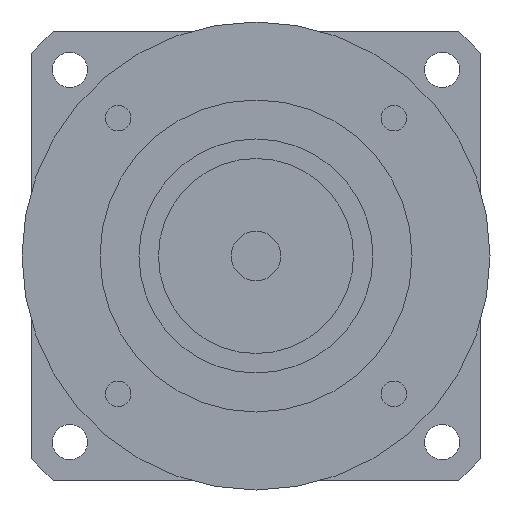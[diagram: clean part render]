
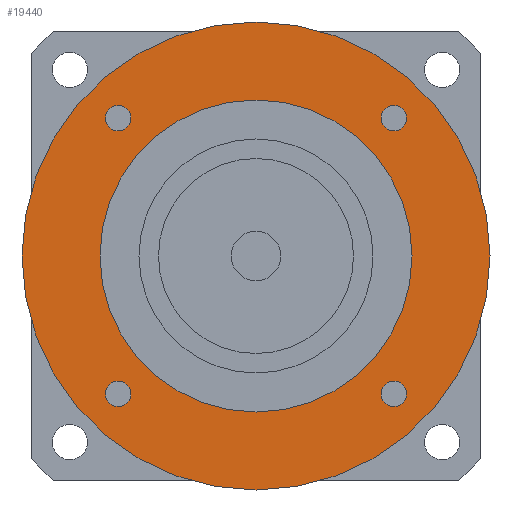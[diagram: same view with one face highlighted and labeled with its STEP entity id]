
A CAD part, left-side view. The second image highlights one B-rep face of the part: STEP entity #19440.
In plain terms, the highlighted planar face has unit normal (-1, 0, 0) as drawn and (0, 0, -1) by its records, which use the part's own axes.
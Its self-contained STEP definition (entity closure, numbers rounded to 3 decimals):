
#18110=CARTESIAN_POINT('',(60.,0.,-101.));
#18120=VERTEX_POINT('',#18110);
#18150=CARTESIAN_POINT('',(0.,0.,
-101.));
#18160=DIRECTION('',(0.,0.,1.));
#18170=DIRECTION('',(0.,-1.,0.));
#18180=AXIS2_PLACEMENT_3D('',#18150,#18160,#18170);
#18190=CIRCLE('',#18180,60.);
#18200=CARTESIAN_POINT('',(0.,-60.,-101.));
#18210=VERTEX_POINT('',#18200);
#18220=EDGE_CURVE('',#18210,#18120,#18190,.T.);
#18240=CARTESIAN_POINT('',(-60.,0.,-101.));
#18250=VERTEX_POINT('',#18240);
#18260=EDGE_CURVE('',#18250,#18210,#18190,.T.);
#18380=CARTESIAN_POINT('',(0.,0.,
-101.));
#18390=DIRECTION('',(0.,0.,1.));
#18400=DIRECTION('',(-1.,0.,0.));
#18410=AXIS2_PLACEMENT_3D('',#18380,#18390,#18400);
#18420=PLANE('',#18410);
#18430=CARTESIAN_POINT('',(35.355,-35.355,-101.));
#18440=DIRECTION('',(0.,0.,-1.));
#18450=DIRECTION('',(1.,0.,0.));
#18460=AXIS2_PLACEMENT_3D('',#18430,#18440,#18450);
#18470=CIRCLE('',#18460,3.25);
#18480=CARTESIAN_POINT('',(38.605,-35.355,-101.));
#18490=VERTEX_POINT('',#18480);
#18500=CARTESIAN_POINT('',(35.355,-38.605,-101.));
#18510=VERTEX_POINT('',#18500);
#18520=EDGE_CURVE('',#18490,#18510,#18470,.T.);
#18530=ORIENTED_EDGE('',*,*,#18520,.F.);
#18540=CARTESIAN_POINT('',(35.355,-32.105,-101.));
#18550=VERTEX_POINT('',#18540);
#18560=EDGE_CURVE('',#18510,#18550,#18470,.T.);
#18570=ORIENTED_EDGE('',*,*,#18560,.F.);
#18580=EDGE_CURVE('',#18550,#18490,#18470,.T.);
#18590=ORIENTED_EDGE('',*,*,#18580,.F.);
#18600=EDGE_LOOP('',(#18590,#18570,#18530));
#18610=FACE_BOUND('',#18600,.T.);
#18620=CARTESIAN_POINT('',(35.355,35.355,-101.));
#18630=DIRECTION('',(0.,0.,-1.));
#18640=DIRECTION('',(0.,1.,0.));
#18650=AXIS2_PLACEMENT_3D('',#18620,#18630,#18640);
#18660=CIRCLE('',#18650,3.25);
#18670=CARTESIAN_POINT('',(35.355,38.605,-101.));
#18680=VERTEX_POINT('',#18670);
#18690=CARTESIAN_POINT('',(38.605,35.355,-101.));
#18700=VERTEX_POINT('',#18690);
#18710=EDGE_CURVE('',#18680,#18700,#18660,.T.);
#18720=ORIENTED_EDGE('',*,*,#18710,.F.);
#18730=CARTESIAN_POINT('',(32.105,35.355,-101.));
#18740=VERTEX_POINT('',#18730);
#18750=EDGE_CURVE('',#18700,#18740,#18660,.T.);
#18760=ORIENTED_EDGE('',*,*,#18750,.F.);
#18770=EDGE_CURVE('',#18740,#18680,#18660,.T.);
#18780=ORIENTED_EDGE('',*,*,#18770,.F.);
#18790=EDGE_LOOP('',(#18780,#18760,#18720));
#18800=FACE_BOUND('',#18790,.T.);
#18810=CARTESIAN_POINT('',(-35.355,35.355,-101.));
#18820=DIRECTION('',(0.,0.,-1.));
#18830=DIRECTION('',(-1.,0.,0.));
#18840=AXIS2_PLACEMENT_3D('',#18810,#18820,#18830);
#18850=CIRCLE('',#18840,3.25);
#18860=CARTESIAN_POINT('',(-38.605,35.355,-101.));
#18870=VERTEX_POINT('',#18860);
#18880=CARTESIAN_POINT('',(-35.355,38.605,-101.));
#18890=VERTEX_POINT('',#18880);
#18900=EDGE_CURVE('',#18870,#18890,#18850,.T.);
#18910=ORIENTED_EDGE('',*,*,#18900,.F.);
#18920=CARTESIAN_POINT('',(-35.355,32.105,-101.));
#18930=VERTEX_POINT('',#18920);
#18940=EDGE_CURVE('',#18890,#18930,#18850,.T.);
#18950=ORIENTED_EDGE('',*,*,#18940,.F.);
#18960=EDGE_CURVE('',#18930,#18870,#18850,.T.);
#18970=ORIENTED_EDGE('',*,*,#18960,.F.);
#18980=EDGE_LOOP('',(#18970,#18950,#18910));
#18990=FACE_BOUND('',#18980,.T.);
#19000=CARTESIAN_POINT('',(-35.355,-35.355,-101.));
#19010=DIRECTION('',(0.,0.,-1.));
#19020=DIRECTION('',(0.,-1.,0.));
#19030=AXIS2_PLACEMENT_3D('',#19000,#19010,#19020);
#19040=CIRCLE('',#19030,3.25);
#19050=CARTESIAN_POINT('',(-35.355,-38.605,-101.));
#19060=VERTEX_POINT('',#19050);
#19070=CARTESIAN_POINT('',(-38.605,-35.355,-101.));
#19080=VERTEX_POINT('',#19070);
#19090=EDGE_CURVE('',#19060,#19080,#19040,.T.);
#19100=ORIENTED_EDGE('',*,*,#19090,.F.);
#19110=CARTESIAN_POINT('',(-32.105,-35.355,-101.));
#19120=VERTEX_POINT('',#19110);
#19130=EDGE_CURVE('',#19080,#19120,#19040,.T.);
#19140=ORIENTED_EDGE('',*,*,#19130,.F.);
#19150=EDGE_CURVE('',#19120,#19060,#19040,.T.);
#19160=ORIENTED_EDGE('',*,*,#19150,.F.);
#19170=EDGE_LOOP('',(#19160,#19140,#19100));
#19180=FACE_BOUND('',#19170,.T.);
#19190=ORIENTED_EDGE('',*,*,#18220,.F.);
#19200=EDGE_CURVE('',#18120,#18250,#18190,.T.);
#19210=ORIENTED_EDGE('',*,*,#19200,.F.);
#19220=ORIENTED_EDGE('',*,*,#18260,.F.);
#19230=EDGE_LOOP('',(#19220,#19210,#19190));
#19240=FACE_OUTER_BOUND('',#19230,.T.);
#19250=CARTESIAN_POINT('',(0.,0.,
-101.));
#19260=DIRECTION('',(0.,0.,1.));
#19270=DIRECTION('',(0.,-1.,0.));
#19280=AXIS2_PLACEMENT_3D('',#19250,#19260,#19270);
#19290=CIRCLE('',#19280,40.);
#19300=CARTESIAN_POINT('',(40.,0.,-101.));
#19310=VERTEX_POINT('',#19300);
#19320=CARTESIAN_POINT('',(-40.,0.,-101.));
#19330=VERTEX_POINT('',#19320);
#19340=EDGE_CURVE('',#19310,#19330,#19290,.T.);
#19350=ORIENTED_EDGE('',*,*,#19340,.T.);
#19360=CARTESIAN_POINT('',(0.,-40.,-101.));
#19370=VERTEX_POINT('',#19360);
#19380=EDGE_CURVE('',#19370,#19310,#19290,.T.);
#19390=ORIENTED_EDGE('',*,*,#19380,.T.);
#19400=EDGE_CURVE('',#19330,#19370,#19290,.T.);
#19410=ORIENTED_EDGE('',*,*,#19400,.T.);
#19420=EDGE_LOOP('',(#19410,#19390,#19350));
#19430=FACE_BOUND('',#19420,.T.);
#19440=ADVANCED_FACE('',(#18610,#18800,#18990,#19180,#19240,#19430),
#18420,.F.);
